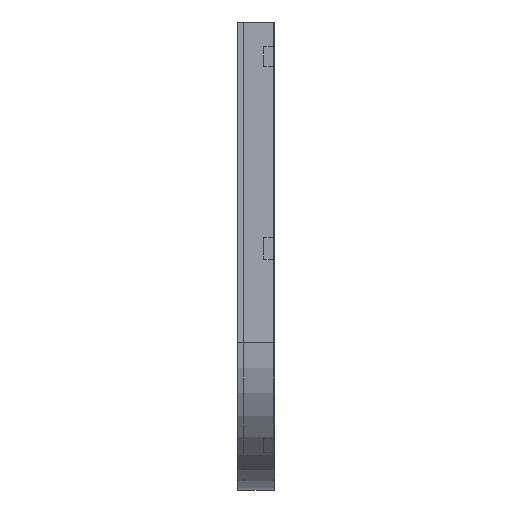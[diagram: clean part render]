
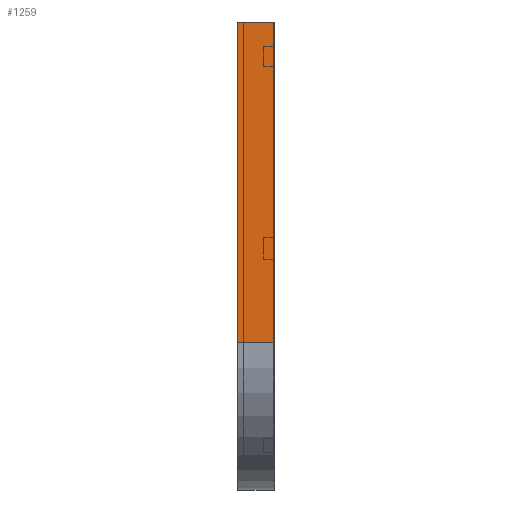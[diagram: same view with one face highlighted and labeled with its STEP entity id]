
A CAD part, left-side view. The second image highlights one B-rep face of the part: STEP entity #1259.
In plain terms, the highlighted planar face has unit normal (-1, 0, 0).
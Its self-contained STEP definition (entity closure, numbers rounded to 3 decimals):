
#151 = AXIS2_PLACEMENT_3D ( 'NONE', #679, #1287, #1466 ) ;
#158 = CARTESIAN_POINT ( 'NONE',  ( 0., 0., -650. ) ) ;
#197 = VERTEX_POINT ( 'NONE', #1372 ) ;
#233 = EDGE_LOOP ( 'NONE', ( #305, #2056, #964, #1865 ) ) ;
#269 = CARTESIAN_POINT ( 'NONE',  ( 0., 75., 0. ) ) ;
#305 = ORIENTED_EDGE ( 'NONE', *, *, #1806, .F. ) ;
#503 = CARTESIAN_POINT ( 'NONE',  ( 0., 0., 0. ) ) ;
#591 = VECTOR ( 'NONE', #1882, 1000. ) ;
#670 = FACE_OUTER_BOUND ( 'NONE', #233, .T. ) ;
#679 = CARTESIAN_POINT ( 'NONE',  ( 0., 0., 0. ) ) ;
#685 = EDGE_CURVE ( 'NONE', #759, #1252, #725, .T. ) ;
#725 = LINE ( 'NONE', #1356, #860 ) ;
#759 = VERTEX_POINT ( 'NONE', #1054 ) ;
#860 = VECTOR ( 'NONE', #1480, 1000. ) ;
#964 = ORIENTED_EDGE ( 'NONE', *, *, #1038, .T. ) ;
#1038 = EDGE_CURVE ( 'NONE', #759, #1430, #1039, .T. ) ;
#1039 = LINE ( 'NONE', #269, #1740 ) ;
#1054 = CARTESIAN_POINT ( 'NONE',  ( 0., 75., 0. ) ) ;
#1252 = VERTEX_POINT ( 'NONE', #1773 ) ;
#1259 = ADVANCED_FACE ( 'NONE', ( #670 ), #1443, .F. ) ;
#1287 = DIRECTION ( 'NONE',  ( 1., 0., 0. ) ) ;
#1318 = VECTOR ( 'NONE', #1879, 1000. ) ;
#1322 = EDGE_CURVE ( 'NONE', #1430, #197, #1886, .T. ) ;
#1356 = CARTESIAN_POINT ( 'NONE',  ( 0., 0., 0. ) ) ;
#1372 = CARTESIAN_POINT ( 'NONE',  ( 0., 0., -650. ) ) ;
#1430 = VERTEX_POINT ( 'NONE', #1747 ) ;
#1443 = PLANE ( 'NONE',  #151 ) ;
#1466 = DIRECTION ( 'NONE',  ( 0., 0., -1. ) ) ;
#1480 = DIRECTION ( 'NONE',  ( 0., -1., 0. ) ) ;
#1683 = DIRECTION ( 'NONE',  ( 0., 0., -1. ) ) ;
#1740 = VECTOR ( 'NONE', #1683, 1000. ) ;
#1747 = CARTESIAN_POINT ( 'NONE',  ( 0., 75., -650. ) ) ;
#1773 = CARTESIAN_POINT ( 'NONE',  ( 0., 0., 0. ) ) ;
#1806 = EDGE_CURVE ( 'NONE', #1252, #197, #2051, .T. ) ;
#1865 = ORIENTED_EDGE ( 'NONE', *, *, #1322, .T. ) ;
#1879 = DIRECTION ( 'NONE',  ( 0., -1., 0. ) ) ;
#1882 = DIRECTION ( 'NONE',  ( 0., 0., -1. ) ) ;
#1886 = LINE ( 'NONE', #158, #1318 ) ;
#2051 = LINE ( 'NONE', #503, #591 ) ;
#2056 = ORIENTED_EDGE ( 'NONE', *, *, #685, .F. ) ;
